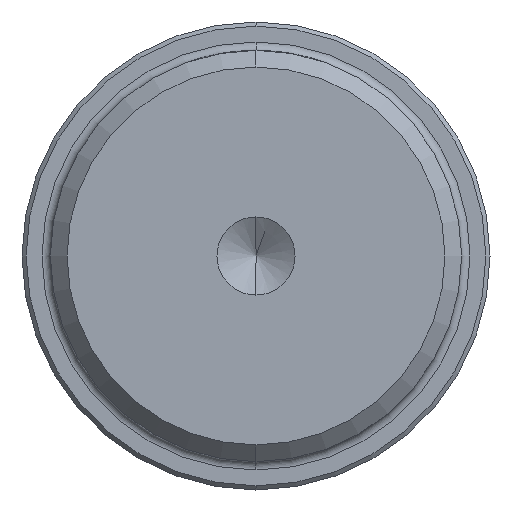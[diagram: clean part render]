
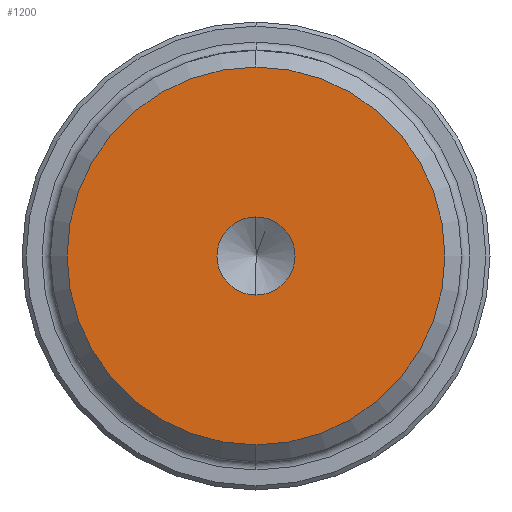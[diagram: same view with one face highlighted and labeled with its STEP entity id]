
A CAD part, left-side view. The second image highlights one B-rep face of the part: STEP entity #1200.
In plain terms, the highlighted planar face has unit normal (-1, 0, 0).
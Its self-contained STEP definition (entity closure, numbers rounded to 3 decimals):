
#2 = CARTESIAN_POINT ( 'NONE',  ( -86.4, 0., 0. ) ) ;
#3 = DIRECTION ( 'NONE',  ( -1., 0., 0. ) ) ;
#4 = DIRECTION ( 'NONE',  ( 0., 0., 1. ) ) ;
#145 = CARTESIAN_POINT ( 'NONE',  ( -86.4, 0., 0. ) ) ;
#146 = DIRECTION ( 'NONE',  ( -1., 0., 0. ) ) ;
#147 = DIRECTION ( 'NONE',  ( 0., 0., 1. ) ) ;
#150 = CARTESIAN_POINT ( 'NONE',  ( -86.4, 0., 0. ) ) ;
#151 = DIRECTION ( 'NONE',  ( -1., 0., 0. ) ) ;
#152 = DIRECTION ( 'NONE',  ( 0., 0., 1. ) ) ;
#278 = CARTESIAN_POINT ( 'NONE',  ( -86.4, 0., 0. ) ) ;
#281 = PLANE ( 'NONE',  #1053 ) ;
#283 = DIRECTION ( 'NONE',  ( 1., 0., 0. ) ) ;
#284 = DIRECTION ( 'NONE',  ( 0., 0., -1. ) ) ;
#338 = FACE_BOUND ( 'NONE', #620, .T. ) ;
#570 = FACE_OUTER_BOUND ( 'NONE', #624, .T. ) ;
#584 = CIRCLE ( 'NONE', #1037, 22.605 ) ;
#585 = CIRCLE ( 'NONE', #1038, 4.675 ) ;
#620 = EDGE_LOOP ( 'NONE', ( #686, #838 ) ) ;
#624 = EDGE_LOOP ( 'NONE', ( #694, #690 ) ) ;
#631 = CARTESIAN_POINT ( 'NONE',  ( -86.4, 0., -22.605 ) ) ;
#632 = CIRCLE ( 'NONE', #1026, 22.605 ) ;
#650 = CIRCLE ( 'NONE', #1028, 4.675 ) ;
#686 = ORIENTED_EDGE ( 'NONE', *, *, #1143, .F. ) ;
#690 = ORIENTED_EDGE ( 'NONE', *, *, #1110, .T. ) ;
#694 = ORIENTED_EDGE ( 'NONE', *, *, #1142, .T. ) ;
#701 = VERTEX_POINT ( 'NONE', #631 ) ;
#755 = VERTEX_POINT ( 'NONE', #1248 ) ;
#765 = VERTEX_POINT ( 'NONE', #1255 ) ;
#774 = VERTEX_POINT ( 'NONE', #1249 ) ;
#838 = ORIENTED_EDGE ( 'NONE', *, *, #1115, .F. ) ;
#1026 = AXIS2_PLACEMENT_3D ( 'NONE', #1406, #1407, #1408 ) ;
#1028 = AXIS2_PLACEMENT_3D ( 'NONE', #2, #3, #4 ) ;
#1037 = AXIS2_PLACEMENT_3D ( 'NONE', #145, #146, #147 ) ;
#1038 = AXIS2_PLACEMENT_3D ( 'NONE', #150, #151, #152 ) ;
#1053 = AXIS2_PLACEMENT_3D ( 'NONE', #278, #283, #284 ) ;
#1110 = EDGE_CURVE ( 'NONE', #774, #701, #632, .T. ) ;
#1115 = EDGE_CURVE ( 'NONE', #765, #755, #650, .T. ) ;
#1142 = EDGE_CURVE ( 'NONE', #701, #774, #584, .T. ) ;
#1143 = EDGE_CURVE ( 'NONE', #755, #765, #585, .T. ) ;
#1200 = ADVANCED_FACE ( 'NONE', ( #570, #338 ), #281, .F. ) ;
#1248 = CARTESIAN_POINT ( 'NONE',  ( -86.4, 0., 4.675 ) ) ;
#1249 = CARTESIAN_POINT ( 'NONE',  ( -86.4, 0., 22.605 ) ) ;
#1255 = CARTESIAN_POINT ( 'NONE',  ( -86.4, 0., -4.675 ) ) ;
#1406 = CARTESIAN_POINT ( 'NONE',  ( -86.4, 0., 0. ) ) ;
#1407 = DIRECTION ( 'NONE',  ( -1., 0., 0. ) ) ;
#1408 = DIRECTION ( 'NONE',  ( 0., 0., 1. ) ) ;
